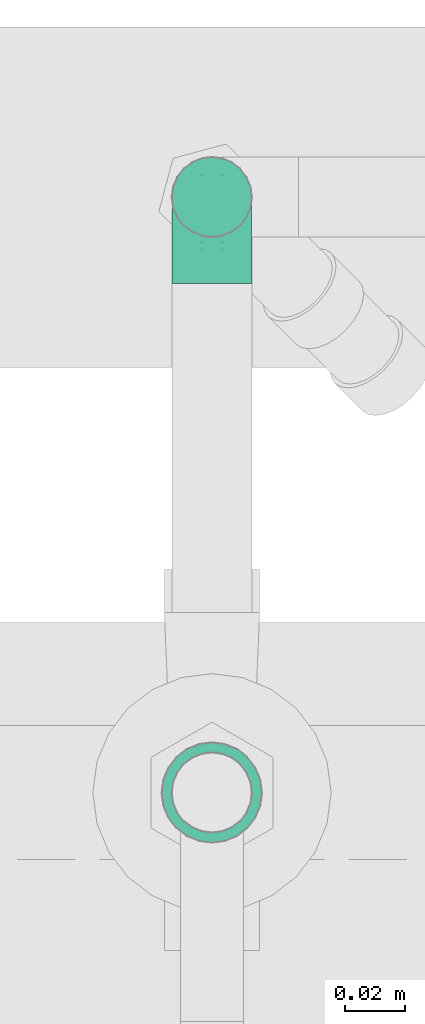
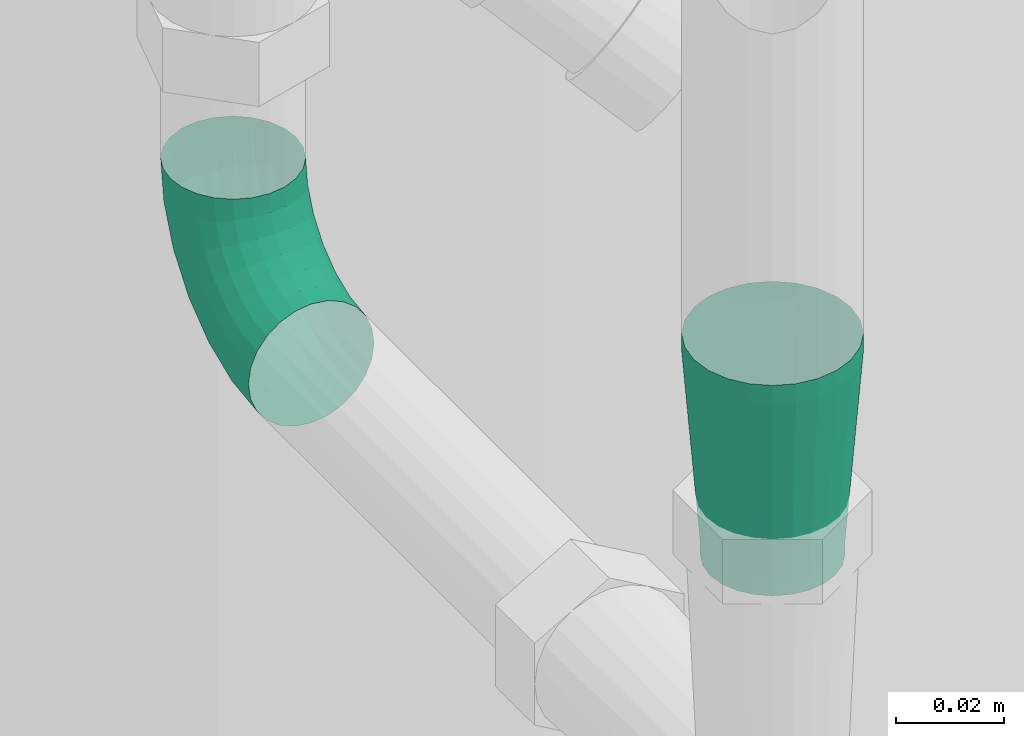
# One storey, part 343 of 374: 1 flow fitting, 1 flow segment.
"""IFC2X3 building model written with IfcOpenShell, lengths in metres."""

from ifc_helpers import new_model, si_unit, direction, origin, place, context, subcontext, project, spatial, open_shell, surface_model, source, transform, mapped, element, save


model = new_model("IFC2X3")

# Units and contexts
model_context = context("Model", 3, precision=1e-05, world=origin(), true_north=direction((-0.4480736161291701, 0.8939966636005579)))
body_context = subcontext(model_context, "Body", "Model", "MODEL_VIEW")
ifc_project = project(units=[si_unit("LENGTHUNIT", "METRE"), si_unit("AREAUNIT", "SQUARE_METRE"), si_unit("VOLUMEUNIT", "CUBIC_METRE"), si_unit("PLANEANGLEUNIT", "RADIAN"), si_unit("THERMODYNAMICTEMPERATUREUNIT", "KELVIN"), si_unit("MASSUNIT", "GRAM", prefix="KILO"), si_unit("TIMEUNIT", "SECOND")], contexts=[model_context])

# Site, building, storey
site_placement = place(None, origin())
site = spatial("IfcSite", under=ifc_project, at=site_placement, Name="Site 1", CompositionType="ELEMENT")
building_placement = place(site_placement, origin())
building = spatial("IfcBuilding", under=site, at=building_placement, Name="Undefined", CompositionType="ELEMENT")
storey_placement = place(building_placement, origin())
storey = spatial("IfcBuildingStorey", under=building, at=storey_placement, Name="Rez de chauss\x8ee", CompositionType="ELEMENT", Elevation=0.0)

# Flow fitting
shared_shape_1 = source(origin(), body_context, "Body", "SurfaceModel", [
    surface_model("IfcFaceBasedSurfaceModel", [(0.0, 0.0, 0.0), (0.0035111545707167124, 0.0, 0.0), (0.0035111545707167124, 0.0032802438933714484, 0.0), (-1.776356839e-15, 0.0032802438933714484, 7.105427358e-15), (0.006902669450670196, 0.0, -0.0009087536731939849), (0.006902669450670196, 0.0032802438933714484, -0.0009087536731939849), (0.009943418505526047, 0.0, -0.002664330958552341), (0.009943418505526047, 0.0032802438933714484, -0.002664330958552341), (0.01242617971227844, 0.0, -0.00514709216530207), (0.01242617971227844, 0.0032802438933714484, -0.00514709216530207), (0.014181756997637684, 0.0, -0.00818784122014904), (0.014181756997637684, 0.0032802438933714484, -0.00818784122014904), (0.01509051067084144, 0.0, -0.011579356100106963), (0.01509051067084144, 0.0032802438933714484, -0.011579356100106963), (0.015090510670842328, 0.0, -0.015090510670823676), (0.015090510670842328, 0.0032802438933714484, -0.015090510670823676), (0.014181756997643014, 0.0, -0.018482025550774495), (0.014181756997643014, 0.0032802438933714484, -0.018482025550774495), (0.01242617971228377, 0.0, -0.021522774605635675), (0.01242617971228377, 0.0032802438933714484, -0.021522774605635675), (0.009943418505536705, 0.0, -0.024005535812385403), (0.009943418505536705, 0.0032802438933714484, -0.024005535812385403), (0.006902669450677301, 0.0, -0.02576111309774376), (0.006902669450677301, 0.0032802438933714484, -0.02576111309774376), (0.0035111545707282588, 0.0, -0.02666986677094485), (0.0035111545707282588, 0.0032802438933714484, -0.02666986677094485), (0.0, 4.2632564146e-14, -0.026669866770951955), (9.769962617e-15, 0.0032802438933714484, -0.02666986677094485), (-0.003391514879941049, 0.0, -0.025761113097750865), (-0.003391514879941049, 0.0032802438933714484, -0.025761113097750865), (-0.006432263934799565, 0.0, -0.02400553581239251), (-0.006432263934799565, 0.0032802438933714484, -0.02400553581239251), (-0.008915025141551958, 0.0, -0.02152277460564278), (-0.008915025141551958, 0.0032802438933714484, -0.02152277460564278), (-0.010670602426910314, 0.0, -0.018482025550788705), (-0.010670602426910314, 0.0032802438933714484, -0.018482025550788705), (-0.011579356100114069, 0.0, -0.015090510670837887), (-0.011579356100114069, 0.0032802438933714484, -0.015090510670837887), (-0.011579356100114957, 0.0, -0.011579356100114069), (-0.011579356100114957, 0.0032802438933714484, -0.011579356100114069), (-0.010670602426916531, 0.0, -0.008187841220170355), (-0.010670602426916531, 0.0032802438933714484, -0.008187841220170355), (-0.008915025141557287, 0.0, -0.005147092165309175), (-0.008915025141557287, 0.0032802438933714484, -0.005147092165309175), (-0.006432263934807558, 0.0, -0.0026643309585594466), (-0.006432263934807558, 0.0032802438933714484, -0.0026643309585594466), (-0.003391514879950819, 0.0, -0.0009087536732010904), (-0.003391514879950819, 0.0032802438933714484, -0.0009087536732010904), (-0.014950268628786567, 0.045895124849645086, -0.011135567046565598), (-0.01495026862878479, 0.045895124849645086, -0.015534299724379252), (-0.013811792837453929, 0.045895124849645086, -0.006886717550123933), (-0.011612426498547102, 0.045895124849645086, -0.0030773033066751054), (-0.008502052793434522, 0.0458951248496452, 3.307039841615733e-05), (-0.0046926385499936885, 0.045895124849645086, 0.0022324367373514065), (-0.00044378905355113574, 0.045895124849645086, 0.0033709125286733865), (0.003954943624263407, 0.045895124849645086, 0.0033709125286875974), (0.008203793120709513, 0.045895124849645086, 0.002232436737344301), (0.012013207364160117, 0.0458951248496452, 3.307039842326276e-05), (0.015123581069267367, 0.045895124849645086, -0.003077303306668), (0.017322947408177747, 0.045895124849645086, -0.006886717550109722), (0.018461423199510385, 0.045895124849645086, -0.011135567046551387), (0.018461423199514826, 0.045895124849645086, -0.015534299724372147), (0.017322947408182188, 0.045895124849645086, -0.01978314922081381), (0.015123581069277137, 0.045895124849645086, -0.02359256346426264), (0.012013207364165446, 0.045895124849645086, -0.026702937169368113), (0.00820379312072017, 0.045895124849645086, -0.02890230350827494), (0.00395494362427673, 0.045895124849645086, -0.03004077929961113), (-0.0004437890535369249, 0.045895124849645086, -0.03004077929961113), (-0.004692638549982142, 0.045895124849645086, -0.028902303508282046), (-0.008502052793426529, 0.045895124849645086, -0.026702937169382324), (-0.011612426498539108, 0.045895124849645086, -0.023592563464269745), (-0.013811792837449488, 0.045895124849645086, -0.019783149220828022), (0.0039549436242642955, 0.050000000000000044, 0.003370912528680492), (-0.00044378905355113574, 0.050000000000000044, 0.0033709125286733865), (0.008203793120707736, 0.050000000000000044, 0.002232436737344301), (0.012013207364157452, 0.0458951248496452, 3.3070398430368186e-05), (0.012013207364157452, 0.04999999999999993, 3.3070398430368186e-05), (0.015123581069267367, 0.050000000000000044, -0.003077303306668), (0.017322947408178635, 0.050000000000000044, -0.006886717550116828), (0.018461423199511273, 0.050000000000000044, -0.011135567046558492), (0.018461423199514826, 0.050000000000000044, -0.015534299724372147), (0.017322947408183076, 0.050000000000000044, -0.019783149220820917), (0.015123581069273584, 0.050000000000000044, -0.02359256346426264), (0.012013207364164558, 0.050000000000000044, -0.026702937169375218), (0.008203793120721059, 0.050000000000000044, -0.028902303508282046), (0.003954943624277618, 0.050000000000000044, -0.030040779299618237), (-0.0004437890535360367, 0.050000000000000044, -0.030040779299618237), (-0.004692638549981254, 0.050000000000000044, -0.02890230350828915), (-0.008502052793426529, 0.050000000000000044, -0.026702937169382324), (-0.01161242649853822, 0.050000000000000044, -0.02359256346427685), (-0.013811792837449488, 0.050000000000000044, -0.019783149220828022), (-0.014950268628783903, 0.050000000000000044, -0.015534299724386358), (-0.014950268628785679, 0.050000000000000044, -0.011135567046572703), (-0.013811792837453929, 0.050000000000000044, -0.006886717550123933), (-0.011612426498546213, 0.050000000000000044, -0.003077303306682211), (-0.00850205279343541, 0.0458951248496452, 3.307039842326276e-05), (-0.00850205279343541, 0.04999999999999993, 3.307039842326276e-05), (-0.0046926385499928, 0.050000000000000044, 0.002232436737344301)], [open_shell([[[0, 1, 2, 3]], [[1, 4, 5, 2]], [[4, 6, 7, 5]], [[6, 8, 9, 7]], [[8, 10, 11, 9]], [[10, 12, 13, 11]], [[12, 14, 15, 13]], [[14, 16, 17, 15]], [[16, 18, 19, 17]], [[18, 20, 21, 19]], [[20, 22, 23, 21]], [[22, 24, 25, 23]], [[24, 26, 27, 25]], [[26, 28, 29, 27]], [[28, 30, 31, 29]], [[30, 32, 33, 31]], [[32, 34, 35, 33]], [[34, 36, 37, 35]], [[36, 38, 39, 37]], [[38, 40, 41, 39]], [[40, 42, 43, 41]], [[42, 44, 45, 43]], [[44, 46, 47, 45]], [[46, 0, 3, 47]], [[37, 39, 48, 49]], [[39, 41, 50, 48]], [[41, 43, 51, 50]], [[43, 45, 52, 51]], [[45, 47, 53, 52]], [[47, 3, 54, 53]], [[3, 2, 55, 54]], [[2, 5, 56, 55]], [[5, 7, 57, 56]], [[7, 9, 58, 57]], [[9, 11, 59, 58]], [[11, 13, 60, 59]], [[13, 15, 61, 60]], [[15, 17, 62, 61]], [[17, 19, 63, 62]], [[19, 21, 64, 63]], [[21, 23, 65, 64]], [[23, 25, 66, 65]], [[25, 27, 67, 66]], [[27, 29, 68, 67]], [[29, 31, 69, 68]], [[31, 33, 70, 69]], [[33, 35, 71, 70]], [[35, 37, 49, 71]], [[54, 55, 72, 73]], [[55, 56, 74, 72]], [[56, 75, 76, 74]], [[75, 58, 77, 76]], [[58, 59, 78, 77]], [[59, 60, 79, 78]], [[60, 61, 80, 79]], [[61, 62, 81, 80]], [[62, 63, 82, 81]], [[63, 64, 83, 82]], [[64, 65, 84, 83]], [[65, 66, 85, 84]], [[66, 67, 86, 85]], [[67, 68, 87, 86]], [[68, 69, 88, 87]], [[69, 70, 89, 88]], [[70, 71, 90, 89]], [[71, 49, 91, 90]], [[49, 48, 92, 91]], [[48, 50, 93, 92]], [[50, 51, 94, 93]], [[51, 95, 96, 94]], [[95, 53, 97, 96]], [[53, 54, 73, 97]]])]),
])
flow_fitting_placement = place(storey_placement, origin())
element("IfcFlowFitting", 1, at=flow_fitting_placement, inside=storey, Name="Réduction", ObjectType="Réduction", context=body_context, shape_type="MappedRepresentation", body=[
    mapped(shared_shape_1, transform((53.24411201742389, 10.718037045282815, 0.836851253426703), x_axis=(0.13052619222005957, -0.9914448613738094, 0.0), y_axis=(0.0, 0.0, 1.0), z_axis=(-0.9914448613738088, -0.13052619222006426, 0.0))),
])

# Flow segment
shared_shape_2 = source(origin(), body_context, "Body", "SurfaceModel", [
    surface_model("IfcFaceBasedSurfaceModel", [(0.011081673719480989, 0.0, 0.0), (0.011021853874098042, 0.0035106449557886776, -8.8817842e-16), (5.981984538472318e-05, 0.003510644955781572, 0.0), (0.0, 0.0, 0.0), (-0.01052869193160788, 0.003877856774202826, -0.002813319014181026), (-0.010704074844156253, 0.00037121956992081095, -0.002844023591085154), (-0.02002209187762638, 0.0045872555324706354, -0.008248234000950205), (-0.020301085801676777, 0.001088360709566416, -0.00833825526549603), (-0.027773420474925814, 0.005590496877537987, -0.01593436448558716), (-0.028137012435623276, 0.002102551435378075, -0.01610827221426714), (-0.03325443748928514, 0.006819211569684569, -0.02534791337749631), (-0.03367784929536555, 0.003344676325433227, -0.025624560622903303), (-0.03609162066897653, 0.008189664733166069, -0.03584736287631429), (-0.03654599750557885, 0.004730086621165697, -0.036238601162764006), (0.01084647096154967, 0.006899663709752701, -0.000901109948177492), (0.00023520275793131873, 0.006899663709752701, -0.000901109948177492), (-0.010014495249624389, 0.007255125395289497, -0.003624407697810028), (-0.019204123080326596, 0.007941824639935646, -0.008885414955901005), (-0.02670742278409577, 0.008912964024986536, -0.016325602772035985), (-0.032013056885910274, 0.010102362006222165, -0.02543793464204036), (-0.03475945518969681, 0.011428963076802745, -0.03560142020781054), (0.010567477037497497, 0.00993610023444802, -0.0026419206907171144), (0.0005141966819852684, 0.009936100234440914, -0.0026419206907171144), (-0.009196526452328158, 0.010272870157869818, -0.005222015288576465), (-0.01790292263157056, 0.010923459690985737, -0.010206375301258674), (-0.025011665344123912, 0.011843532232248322, -0.017255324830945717), (-0.03003830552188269, 0.012970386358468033, -0.025888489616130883), (-0.032640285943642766, 0.014227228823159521, -0.03551753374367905), (0.01020388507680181, 0.012413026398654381, -0.005103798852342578), (0.0008777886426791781, 0.012413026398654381, -0.005103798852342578), (-0.008130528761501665, 0.012725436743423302, -0.007497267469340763), (-0.01620716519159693, 0.013328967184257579, -0.012121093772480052), (-0.022801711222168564, 0.014182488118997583, -0.018660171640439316), (-0.02746475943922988, 0.015227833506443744, -0.02666887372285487), (-0.029878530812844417, 0.01639376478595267, -0.03560142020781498), (0.009780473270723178, 0.014161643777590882, -0.0081189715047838), (0.001301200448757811, 0.014161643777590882, -0.0081189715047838), (-0.006889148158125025, 0.014445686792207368, -0.01029510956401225), (-0.014232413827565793, 0.014994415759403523, -0.014499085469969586), (-0.020228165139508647, 0.01577043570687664, -0.020444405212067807), (-0.024467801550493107, 0.016720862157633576, -0.027725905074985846), (-0.026662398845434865, 0.017780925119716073, -0.035847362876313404), (0.009326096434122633, 0.015062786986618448, -0.011481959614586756), (0.0017555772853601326, 0.015062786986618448, -0.011481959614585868), (-0.005556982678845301, 0.015316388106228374, -0.013424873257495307), (-0.01211324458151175, 0.015806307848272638, -0.017178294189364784), (-0.017466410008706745, 0.016499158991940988, -0.02248643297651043), (-0.02125166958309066, 0.01734772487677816, -0.02898754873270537), (-0.023211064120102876, 0.01829417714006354, -0.03623860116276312), (0.008871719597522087, 0.015055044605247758, -0.01496358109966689), (0.0022099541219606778, 0.015055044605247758, -0.014963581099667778), (-0.004224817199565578, 0.015278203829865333, -0.01667327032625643), (-0.009994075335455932, 0.015709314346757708, -0.01997613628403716), (-0.014704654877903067, 0.01631899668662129, -0.024647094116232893), (-0.01803553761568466, 0.017065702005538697, -0.03036782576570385), (-0.019759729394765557, 0.017898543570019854, -0.036748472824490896), (0.008448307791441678, 0.014138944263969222, -0.018326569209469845), (0.0026333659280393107, 0.014138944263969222, -0.018326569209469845), (-0.002983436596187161, 0.014333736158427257, -0.019818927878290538), (-0.008019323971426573, 0.014710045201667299, -0.022701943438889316), (-0.012131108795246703, 0.015242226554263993, -0.02677914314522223), (-0.01503857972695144, 0.01589401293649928, -0.03177267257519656), (-0.016543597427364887, 0.01662098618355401, -0.03734223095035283), (0.008084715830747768, 0.012376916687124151, -0.021341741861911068), (0.002996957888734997, 0.012376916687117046, -0.021341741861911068), (-0.0019174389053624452, 0.012547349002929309, -0.022647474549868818), (-0.00632356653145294, 0.012876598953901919, -0.025169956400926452), (-0.009921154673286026, 0.013342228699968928, -0.028737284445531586), (-0.012465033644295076, 0.013912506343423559, -0.033106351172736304), (-0.013781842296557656, 0.01454856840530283, -0.03797941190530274), (0.007805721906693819, 0.009889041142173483, -0.02380362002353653), (0.00327595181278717, 0.009889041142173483, -0.02380362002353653), (-0.001099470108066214, 0.010040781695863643, -0.024966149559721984), (-0.005022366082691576, 0.010333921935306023, -0.027211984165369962), (-0.008225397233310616, 0.010748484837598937, -0.030388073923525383), (-0.010490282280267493, 0.01125621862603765, -0.034277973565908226), (-0.011662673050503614, 0.01182252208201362, -0.03861659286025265), (0.007630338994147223, 0.0068448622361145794, -0.025544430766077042), (0.003451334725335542, 0.0068448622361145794, -0.025544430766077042), (-0.0005852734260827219, 0.006984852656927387, -0.02661693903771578), (-0.004204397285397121, 0.0072552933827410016, -0.02868886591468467), (-0.007159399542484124, 0.007637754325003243, -0.03161901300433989), (-0.009248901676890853, 0.008106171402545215, -0.03520769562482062), (-0.010330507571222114, 0.008628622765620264, -0.03921035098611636), (0.0075705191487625, 0.0034518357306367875, -0.026445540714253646), (0.003511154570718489, 0.0034518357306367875, -0.026445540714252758), (-0.0004098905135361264, 0.0035878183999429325, -0.027487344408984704), (-0.003925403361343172, 0.0038505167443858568, -0.02949995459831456), (-0.006795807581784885, 0.0042220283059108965, -0.03234621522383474), (-0.008825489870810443, 0.004677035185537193, -0.03583215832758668), (-0.009876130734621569, 0.0051845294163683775, -0.03972022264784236), (0.007630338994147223, -5.880922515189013e-05, -0.026445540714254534), (0.003451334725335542, -5.880922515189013e-05, -0.026445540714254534), (-0.0005852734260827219, 8.118119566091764e-05, -0.027518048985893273), (-0.004204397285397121, 0.000351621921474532, -0.02958997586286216), (-0.007159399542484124, 0.0007340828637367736, -0.03252012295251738), (-0.009248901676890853, 0.0012024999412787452, -0.036108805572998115), (-0.010330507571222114, 0.0017249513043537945, -0.04011146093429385), (0.007805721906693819, -0.0034478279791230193, -0.02554443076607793), (0.00327595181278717, -0.0034478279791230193, -0.02554443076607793), (-0.001099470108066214, -0.0032960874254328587, -0.026706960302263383), (-0.005022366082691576, -0.003002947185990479, -0.02895279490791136), (-0.008225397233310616, -0.0025883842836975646, -0.03212888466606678), (-0.010490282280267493, -0.002080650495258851, -0.036018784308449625), (-0.011662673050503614, -0.0015143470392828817, -0.04035740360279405), (0.008084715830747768, -0.006484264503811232, -0.023803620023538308), (0.002996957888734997, -0.006484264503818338, -0.023803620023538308), (-0.0019174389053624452, -0.006313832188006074, -0.025109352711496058), (-0.00632356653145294, -0.0059845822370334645, -0.027631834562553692), (-0.009921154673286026, -0.005518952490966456, -0.031199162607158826), (-0.012465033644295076, -0.004948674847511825, -0.035568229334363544), (-0.013781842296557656, -0.0043126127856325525, -0.04044129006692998), (0.008448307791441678, -0.008961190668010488, -0.021341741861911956), (0.0026333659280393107, -0.008961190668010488, -0.021341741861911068), (-0.002983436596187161, -0.008766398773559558, -0.02283410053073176), (-0.008019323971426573, -0.008390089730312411, -0.025717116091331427), (-0.012131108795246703, -0.007857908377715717, -0.02979431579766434), (-0.01503857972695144, -0.00720612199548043, -0.03478784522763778), (-0.016543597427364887, -0.0064791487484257, -0.04035740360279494), (0.008871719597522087, -0.01070980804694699, -0.018326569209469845), (0.0022099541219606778, -0.01070980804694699, -0.018326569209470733), (-0.004224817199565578, -0.010486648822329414, -0.020036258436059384), (-0.009994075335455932, -0.01005553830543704, -0.023339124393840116), (-0.014704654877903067, -0.009445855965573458, -0.02801008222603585), (-0.01803553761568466, -0.00869915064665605, -0.033730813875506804), (-0.019759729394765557, -0.007866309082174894, -0.04011146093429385), (0.009326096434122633, -0.011610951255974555, -0.014963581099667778), (0.0017555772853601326, -0.011610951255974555, -0.014963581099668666), (-0.005556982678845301, -0.01135735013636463, -0.016906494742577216), (-0.01211324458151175, -0.010867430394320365, -0.020659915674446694), (-0.017466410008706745, -0.010174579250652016, -0.025968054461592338), (-0.02125166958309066, -0.009326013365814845, -0.03246917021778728), (-0.023211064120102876, -0.008379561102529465, -0.039720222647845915), (0.009780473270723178, -0.01160320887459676, -0.011481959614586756), (0.001301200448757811, -0.011603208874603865, -0.011481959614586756), (-0.006889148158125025, -0.011319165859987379, -0.013658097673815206), (-0.014232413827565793, -0.010770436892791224, -0.01786207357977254), (-0.020228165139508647, -0.009994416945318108, -0.023807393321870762), (-0.024467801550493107, -0.009043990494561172, -0.0310888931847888), (-0.026662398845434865, -0.007983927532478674, -0.03921035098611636), (0.01020388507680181, -0.010687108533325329, -0.008118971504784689), (0.0008777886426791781, -0.010687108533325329, -0.008118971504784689), (-0.008130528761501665, -0.010374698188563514, -0.010512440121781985), (-0.01620716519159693, -0.009771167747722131, -0.015136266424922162), (-0.022801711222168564, -0.008917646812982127, -0.021675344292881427), (-0.02746475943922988, -0.007872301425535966, -0.02968404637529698), (-0.029878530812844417, -0.006706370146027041, -0.038616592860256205), (0.010567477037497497, -0.008925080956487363, -0.0051037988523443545), (0.0005141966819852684, -0.008925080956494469, -0.0051037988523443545), (-0.009196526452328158, -0.008588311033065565, -0.007683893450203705), (-0.01790292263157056, -0.007937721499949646, -0.012668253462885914), (-0.025011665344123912, -0.007017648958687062, -0.019717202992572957), (-0.03003830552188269, -0.00589079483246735, -0.028350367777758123), (-0.032640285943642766, -0.004633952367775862, -0.03797941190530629), (0.01084647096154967, -0.0064372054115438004, -0.002641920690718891), (0.00023520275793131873, -0.0064372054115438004, -0.002641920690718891), (-0.010014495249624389, -0.006081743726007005, -0.005365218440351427), (-0.019204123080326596, -0.005395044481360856, -0.010626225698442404), (-0.02670742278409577, -0.004423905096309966, -0.018066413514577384), (-0.032013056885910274, -0.0032345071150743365, -0.02717874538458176), (-0.03475945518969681, -0.0019079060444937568, -0.03734223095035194), (0.011021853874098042, -0.003393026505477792, -0.0009011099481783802), (5.981984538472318e-05, -0.0033930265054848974, -0.000901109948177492), (-0.01052869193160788, -0.0030258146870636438, -0.003714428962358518), (-0.02002209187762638, -0.002316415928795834, -0.009149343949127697), (-0.027773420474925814, -0.0013131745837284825, -0.016835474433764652), (-0.03325443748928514, -8.445989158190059e-05, -0.026249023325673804), (-0.03609162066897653, 0.0012859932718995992, -0.036748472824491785)], [open_shell([[[0, 1, 2, 3]], [[3, 2, 4, 5]], [[5, 4, 6, 7]], [[7, 6, 8, 9]], [[9, 8, 10, 11]], [[11, 10, 12, 13]], [[1, 14, 15, 2]], [[2, 15, 16, 4]], [[4, 16, 17, 6]], [[6, 17, 18, 8]], [[8, 18, 19, 10]], [[10, 19, 20, 12]], [[14, 21, 22, 15]], [[15, 22, 23, 16]], [[16, 23, 24, 17]], [[17, 24, 25, 18]], [[18, 25, 26, 19]], [[19, 26, 27, 20]], [[21, 28, 29, 22]], [[22, 29, 30, 23]], [[23, 30, 31, 24]], [[24, 31, 32, 25]], [[25, 32, 33, 26]], [[26, 33, 34, 27]], [[28, 35, 36, 29]], [[29, 36, 37, 30]], [[30, 37, 38, 31]], [[31, 38, 39, 32]], [[32, 39, 40, 33]], [[33, 40, 41, 34]], [[35, 42, 43, 36]], [[36, 43, 44, 37]], [[37, 44, 45, 38]], [[38, 45, 46, 39]], [[39, 46, 47, 40]], [[40, 47, 48, 41]], [[42, 49, 50, 43]], [[43, 50, 51, 44]], [[44, 51, 52, 45]], [[45, 52, 53, 46]], [[46, 53, 54, 47]], [[47, 54, 55, 48]], [[49, 56, 57, 50]], [[50, 57, 58, 51]], [[51, 58, 59, 52]], [[52, 59, 60, 53]], [[53, 60, 61, 54]], [[54, 61, 62, 55]], [[56, 63, 64, 57]], [[57, 64, 65, 58]], [[58, 65, 66, 59]], [[59, 66, 67, 60]], [[60, 67, 68, 61]], [[61, 68, 69, 62]], [[63, 70, 71, 64]], [[64, 71, 72, 65]], [[65, 72, 73, 66]], [[66, 73, 74, 67]], [[67, 74, 75, 68]], [[68, 75, 76, 69]], [[70, 77, 78, 71]], [[71, 78, 79, 72]], [[72, 79, 80, 73]], [[73, 80, 81, 74]], [[74, 81, 82, 75]], [[75, 82, 83, 76]], [[77, 84, 85, 78]], [[78, 85, 86, 79]], [[79, 86, 87, 80]], [[80, 87, 88, 81]], [[81, 88, 89, 82]], [[82, 89, 90, 83]], [[84, 91, 92, 85]], [[85, 92, 93, 86]], [[86, 93, 94, 87]], [[87, 94, 95, 88]], [[88, 95, 96, 89]], [[89, 96, 97, 90]], [[91, 98, 99, 92]], [[92, 99, 100, 93]], [[93, 100, 101, 94]], [[94, 101, 102, 95]], [[95, 102, 103, 96]], [[96, 103, 104, 97]], [[98, 105, 106, 99]], [[99, 106, 107, 100]], [[100, 107, 108, 101]], [[101, 108, 109, 102]], [[102, 109, 110, 103]], [[103, 110, 111, 104]], [[105, 112, 113, 106]], [[106, 113, 114, 107]], [[107, 114, 115, 108]], [[108, 115, 116, 109]], [[109, 116, 117, 110]], [[110, 117, 118, 111]], [[112, 119, 120, 113]], [[113, 120, 121, 114]], [[114, 121, 122, 115]], [[115, 122, 123, 116]], [[116, 123, 124, 117]], [[117, 124, 125, 118]], [[119, 126, 127, 120]], [[120, 127, 128, 121]], [[121, 128, 129, 122]], [[122, 129, 130, 123]], [[123, 130, 131, 124]], [[124, 131, 132, 125]], [[126, 133, 134, 127]], [[127, 134, 135, 128]], [[128, 135, 136, 129]], [[129, 136, 137, 130]], [[130, 137, 138, 131]], [[131, 138, 139, 132]], [[133, 140, 141, 134]], [[134, 141, 142, 135]], [[135, 142, 143, 136]], [[136, 143, 144, 137]], [[137, 144, 145, 138]], [[138, 145, 146, 139]], [[140, 147, 148, 141]], [[141, 148, 149, 142]], [[142, 149, 150, 143]], [[143, 150, 151, 144]], [[144, 151, 152, 145]], [[145, 152, 153, 146]], [[147, 154, 155, 148]], [[148, 155, 156, 149]], [[149, 156, 157, 150]], [[150, 157, 158, 151]], [[151, 158, 159, 152]], [[152, 159, 160, 153]], [[154, 161, 162, 155]], [[155, 162, 163, 156]], [[156, 163, 164, 157]], [[157, 164, 165, 158]], [[158, 165, 166, 159]], [[159, 166, 167, 160]], [[161, 0, 3, 162]], [[162, 3, 5, 163]], [[163, 5, 7, 164]], [[164, 7, 9, 165]], [[165, 9, 11, 166]], [[166, 11, 13, 167]]])]),
])
flow_segment_placement = place(storey_placement, origin())
element("IfcFlowSegment", 2, at=flow_segment_placement, inside=storey, Name="Tube coudé", ObjectType="Tube coudé", context=body_context, shape_type="MappedRepresentation", body=[
    mapped(shared_shape_2, transform((53.257562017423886, 10.900023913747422, 0.7643477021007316), x_axis=(0.0, -0.9914448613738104, -0.13052619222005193), y_axis=(-0.9915887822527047, -0.016893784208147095, 0.12832103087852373), z_axis=(-0.12942830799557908, 0.12942830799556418, -0.9831056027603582))),
])

save(model, "model.ifc")
